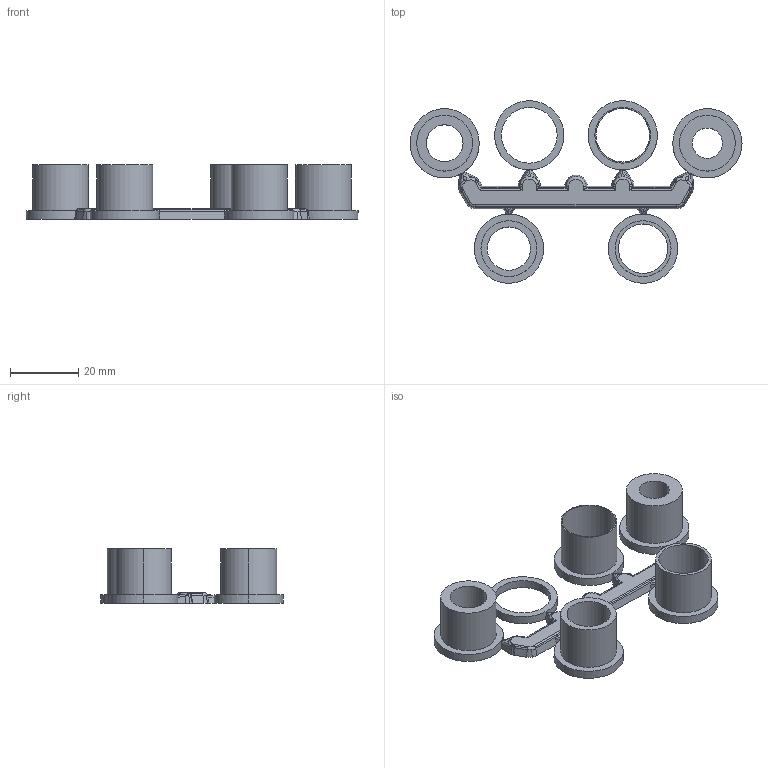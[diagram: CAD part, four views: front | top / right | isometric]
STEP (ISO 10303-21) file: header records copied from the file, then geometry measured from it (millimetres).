
FILE_DESCRIPTION((''),'2;1');
FILE_NAME('comp_insert 37-50.stp','2008-05-07T09:19:01',(''),(''),'Mechanical Desktop.R8.0.24.0','Mechanical Desktop.R8.0.24.0',', , ');
FILE_SCHEMA(('CONFIG_CONTROL_DESIGN'));
Length unit declared in the file: inch
Products named in the file (1): COMP_INSERT 37-50 UNION
Bounding box: 97.41 x 53.59 x 16 mm (x, y, z)
Volume: 9857.2 mm3; surface area: 11372.6 mm2
Topology: 1 solids, 1 shells, 217 faces, 566 edges, 356 vertices
Faces by surface type: cylinder 104, plane 64, cone 30, torus 19
Entity records: 7132 total; most frequent: CARTESIAN_POINT 1756, ORIENTED_EDGE 1132, DIRECTION 1099, EDGE_CURVE 566, AXIS2_PLACEMENT_3D 441, VERTEX_POINT 356, EDGE_LOOP 234, VECTOR 217
